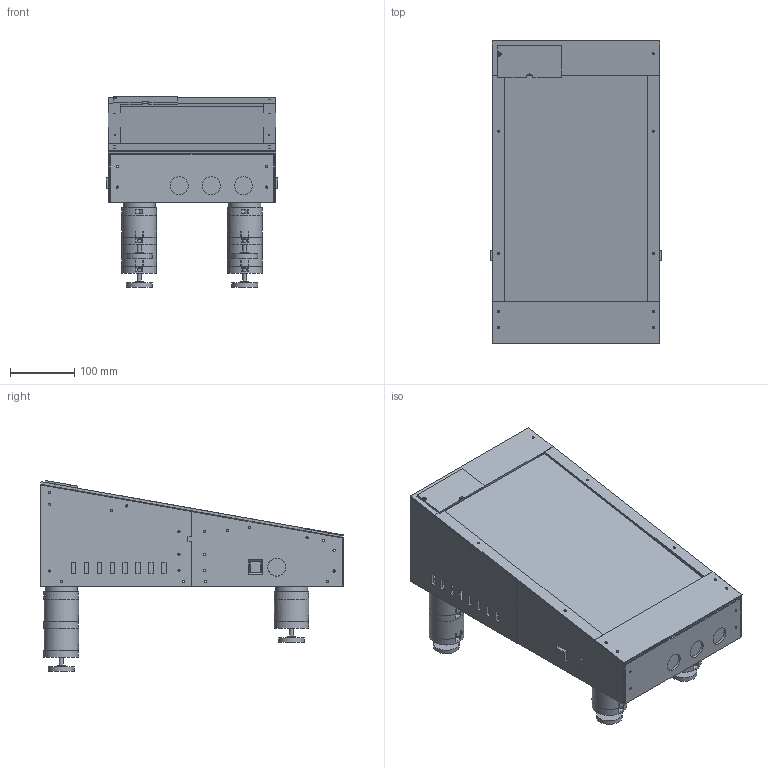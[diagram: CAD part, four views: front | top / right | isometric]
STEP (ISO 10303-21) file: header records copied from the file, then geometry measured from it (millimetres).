
FILE_DESCRIPTION(('Open CASCADE Model'),'2;1');
FILE_NAME('Open CASCADE Shape Model','2026-11-12T02:55:47',('Author'),( 'Open CASCADE'),'Open CASCADE STEP processor 7.8','Open CASCADE 7.8' ,'Unknown');
FILE_SCHEMA(('AUTOMOTIVE_DESIGN { 1 0 10303 214 1 1 1 1 }'));
Length unit declared in the file: millimetre
Products named in the file (97): Mini_VPin_Prototype_V1_16; left_front_wall; left_rear_wall; right_front_wall; right_rear_wall; front_button_panel; rear_vent_panel; corner_left_front_24; corner_left_front_56; corner_left_rear_24; corner_left_rear_128; corner_right_front_24; corner_right_front_56; corner_right_rear_24; corner_right_rear_128; splice_left; splice_right; floor_block_left_28; floor_block_left_218; floor_block_left_252; floor_block_left_442; floor_block_right_28; floor_block_right_218; floor_block_right_252; floor_block_right_442; bottom_front; bottom_rear; foot_backing_left_front; foot_receiver_left_front; foot_twist_core_left_front_1_45mm; foot_lock_sleeve_left_front_1_45mm; foot_bolt_key_left_front_1_45mm; REFERENCE_swivel_rubber_pad_left_front; foot_backing_left_rear; foot_receiver_left_rear; foot_twist_core_left_rear_1_45mm; foot_lock_sleeve_left_rear_1_45mm; foot_bolt_key_left_rear_1_45mm; foot_twist_core_left_rear_2_45mm; foot_lock_sleeve_left_rear_2_45mm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
Assembly tree (96 placements, depth 2):
  Mini_VPin_Prototype_V1_16
    left_front_wall
    left_rear_wall
    right_front_wall
    right_rear_wall
    front_button_panel
    rear_vent_panel
    corner_left_front_24
    corner_left_front_56
    corner_left_rear_24
    corner_left_rear_128
    corner_right_front_24
    corner_right_front_56
    corner_right_rear_24
    corner_right_rear_128
    splice_left
    splice_right
    floor_block_left_28
    floor_block_left_218
    floor_block_left_252
    floor_block_left_442
    floor_block_right_28
    floor_block_right_218
    floor_block_right_252
    floor_block_right_442
    bottom_front
    bottom_rear
    foot_backing_left_front
    foot_receiver_left_front
    foot_twist_core_left_front_1_45mm
    foot_lock_sleeve_left_front_1_45mm
    foot_bolt_key_left_front_1_45mm
    REFERENCE_swivel_rubber_pad_left_front
    foot_backing_left_rear
    foot_receiver_left_rear
    foot_twist_core_left_rear_1_45mm
    foot_lock_sleeve_left_rear_1_45mm
    foot_bolt_key_left_rear_1_45mm
    foot_twist_core_left_rear_2_45mm
    foot_lock_sleeve_left_rear_2_45mm
    foot_bolt_key_left_rear_2_45mm
    REFERENCE_swivel_rubber_pad_left_rear
    foot_backing_right_front
    foot_receiver_right_front
    foot_twist_core_right_front_1_45mm
    foot_lock_sleeve_right_front_1_45mm
    foot_bolt_key_right_front_1_45mm
    REFERENCE_swivel_rubber_pad_right_front
    foot_backing_right_rear
    foot_receiver_right_rear
    foot_twist_core_right_rear_1_45mm
    foot_lock_sleeve_right_rear_1_45mm
    foot_bolt_key_right_rear_1_45mm
    foot_twist_core_right_rear_2_45mm
    foot_lock_sleeve_right_rear_2_45mm
    foot_bolt_key_right_rear_2_45mm
    REFERENCE_swivel_rubber_pad_right_rear
    top_block_left_25
    top_block_left_50
    top_block_left_140
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Bounding box: 267 x 470.54 x 296.59 mm (x, y, z)
Volume: 8104308.3 mm3; surface area: 1641992 mm2
Topology: 96 solids, 96 shells, 2125 faces, 5293 edges, 3512 vertices
Faces by surface type: plane 1762, cylinder 337, extrusion 20, bspline 4, cone 2
Full cylindrical faces by diameter (mm): 3.4 x158, 4.5 x52, 6 x6, 6.4 x2, 6.7 x14, 8.4 x16, 10 x16, 12 x4, 27.8 x2, 28 x5, 40 x6, 50 x8, 54 x16
Entity records: 143993 total; most frequent: CARTESIAN_POINT 35136, DIRECTION 18965, VECTOR 12359, LINE 12339, ORIENTED_EDGE 10586, PCURVE 10586, DEFINITIONAL_REPRESENTATION 10586, EDGE_CURVE 5293
